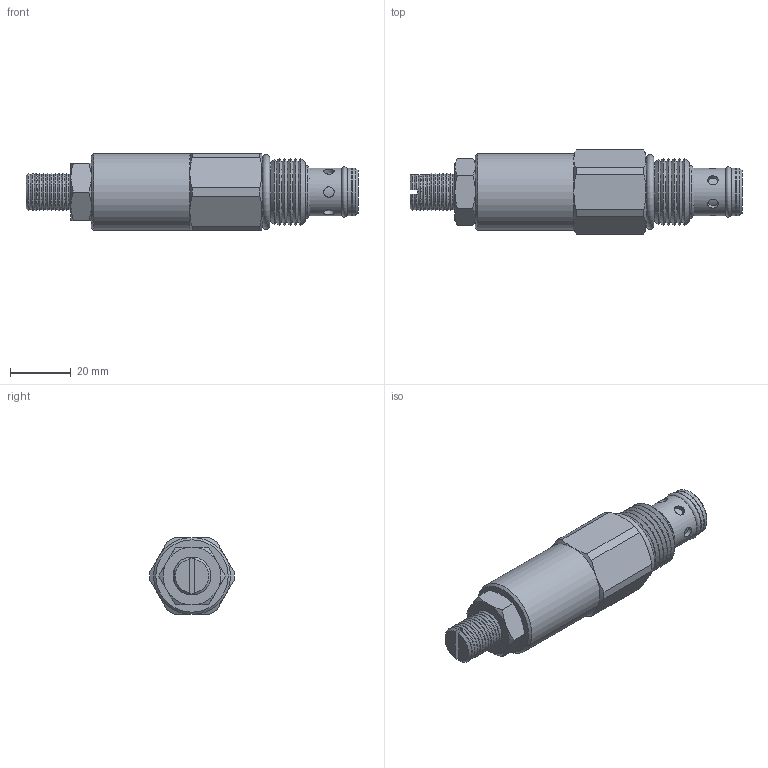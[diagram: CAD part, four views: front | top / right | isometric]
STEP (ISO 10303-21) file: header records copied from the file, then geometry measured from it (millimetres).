
FILE_DESCRIPTION(/* description */ (''),/* implementation_level */ '2;1');
FILE_NAME(/* name */ 'Q:\Delta CADD Insertion Codes\3D Solid models\Mechanical Valves\STEP\HERVD00.stp',/* time_stamp */ '2016-12-08T13:30:30-06:00',/* author */ ('dan'),/* organization */ (''),/* preprocessor_version */ 'ST-DEVELOPER v16.1',/* originating_system */ 'Autodesk Inventor 2016',/* authorisation */ '');
FILE_SCHEMA (('AUTOMOTIVE_DESIGN { 1 0 10303 214 3 1 1 }'));
Length unit declared in the file: inch
Products named in the file (1): HERVD00
Bounding box: 109.62 x 27.76 x 25.4 mm (x, y, z)
Volume: 41823.8 mm3; surface area: 10159.8 mm2
Topology: 4 solids, 4 shells, 130 faces, 276 edges, 161 vertices
Faces by surface type: cone 68, plane 38, cylinder 20, torus 4
Full cylindrical faces by diameter (mm): 3.454 x6, 12.992 x1, 13.043 x1, 15.735 x1, 15.773 x2, 17.323 x1, 19.621 x1, 25.4 x1
Entity records: 3454 total; most frequent: CARTESIAN_POINT 1097, DIRECTION 473, ORIENTED_EDGE 448, AXIS2_PLACEMENT_3D 225, EDGE_CURVE 224, EDGE_LOOP 190, VERTEX_POINT 156, FACE_OUTER_BOUND 130
